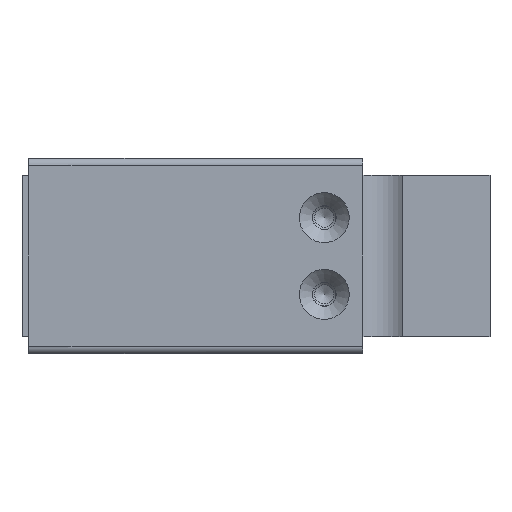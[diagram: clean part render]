
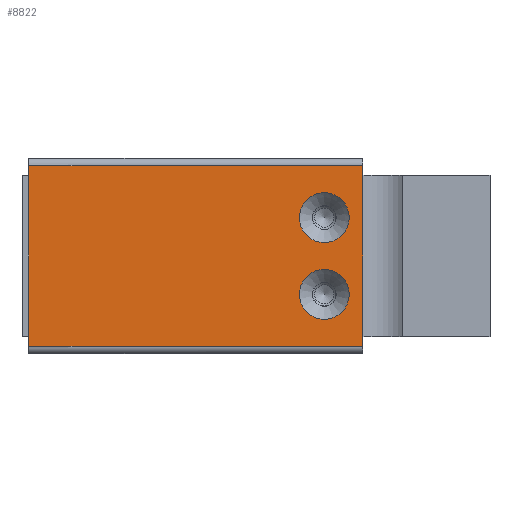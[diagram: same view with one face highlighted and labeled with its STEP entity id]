
A CAD part, left-side view. The second image highlights one B-rep face of the part: STEP entity #8822.
In plain terms, the highlighted planar face has unit normal (-1, 0, 0) as drawn and (0, 0, 1) by its records, which use the part's own axes.
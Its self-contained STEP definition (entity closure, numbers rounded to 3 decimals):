
#559=FACE_BOUND('',#1628,.T.);
#560=FACE_BOUND('',#1629,.T.);
#717=PLANE('',#9571);
#1039=FACE_OUTER_BOUND('',#1627,.T.);
#1627=EDGE_LOOP('',(#6457,#6458,#6459,#6460));
#1628=EDGE_LOOP('',(#6461));
#1629=EDGE_LOOP('',(#6462));
#2317=LINE('',#12936,#2935);
#2322=LINE('',#12952,#2940);
#2337=LINE('',#12983,#2955);
#2338=LINE('',#12984,#2956);
#2935=VECTOR('',#10650,1000.);
#2940=VECTOR('',#10663,1000.);
#2955=VECTOR('',#10688,1000.);
#2956=VECTOR('',#10689,1000.);
#3591=CIRCLE('',#9555,3.25);
#3593=CIRCLE('',#9558,3.25);
#3979=VERTEX_POINT('',#12911);
#3981=VERTEX_POINT('',#12917);
#3986=VERTEX_POINT('',#12934);
#3987=VERTEX_POINT('',#12935);
#3993=VERTEX_POINT('',#12949);
#3994=VERTEX_POINT('',#12951);
#4911=EDGE_CURVE('',#3979,#3979,#3591,.T.);
#4914=EDGE_CURVE('',#3981,#3981,#3593,.T.);
#4921=EDGE_CURVE('',#3986,#3987,#2317,.T.);
#4929=EDGE_CURVE('',#3994,#3993,#2322,.T.);
#4945=EDGE_CURVE('',#3993,#3987,#2337,.T.);
#4946=EDGE_CURVE('',#3986,#3994,#2338,.T.);
#6457=ORIENTED_EDGE('',*,*,#4929,.T.);
#6458=ORIENTED_EDGE('',*,*,#4945,.T.);
#6459=ORIENTED_EDGE('',*,*,#4921,.F.);
#6460=ORIENTED_EDGE('',*,*,#4946,.T.);
#6461=ORIENTED_EDGE('',*,*,#4914,.T.);
#6462=ORIENTED_EDGE('',*,*,#4911,.T.);
#8822=ADVANCED_FACE('',(#1039,#559,#560),#717,.F.);
#9555=AXIS2_PLACEMENT_3D('',#12913,#10627,#10628);
#9558=AXIS2_PLACEMENT_3D('',#12919,#10634,#10635);
#9571=AXIS2_PLACEMENT_3D('',#12982,#10686,#10687);
#10627=DIRECTION('center_axis',(0.,0.,-1.));
#10628=DIRECTION('ref_axis',(-1.,0.,0.));
#10634=DIRECTION('center_axis',(0.,0.,-1.));
#10635=DIRECTION('ref_axis',(-1.,0.,0.));
#10650=DIRECTION('',(1.,0.,0.));
#10663=DIRECTION('',(1.,0.,0.));
#10686=DIRECTION('center_axis',(0.,0.,-1.));
#10687=DIRECTION('ref_axis',(-1.,0.,0.));
#10688=DIRECTION('',(0.,1.,0.));
#10689=DIRECTION('',(0.,-1.,0.));
#12911=CARTESIAN_POINT('',(-8.25,5.,26.68));
#12913=CARTESIAN_POINT('Origin',(-5.,5.,26.68));
#12917=CARTESIAN_POINT('',(1.75,5.,26.68));
#12919=CARTESIAN_POINT('Origin',(5.,5.,26.68));
#12934=CARTESIAN_POINT('',(-11.76,43.5,26.68));
#12935=CARTESIAN_POINT('',(11.76,43.5,26.68));
#12936=CARTESIAN_POINT('',(-12.76,43.5,26.68));
#12949=CARTESIAN_POINT('',(11.76,0.,26.68));
#12951=CARTESIAN_POINT('',(-11.76,0.,26.68));
#12952=CARTESIAN_POINT('',(-12.76,0.,26.68));
#12982=CARTESIAN_POINT('Origin',(-12.76,43.5,26.68));
#12983=CARTESIAN_POINT('',(11.76,43.5,26.68));
#12984=CARTESIAN_POINT('',(-11.76,43.5,26.68));
